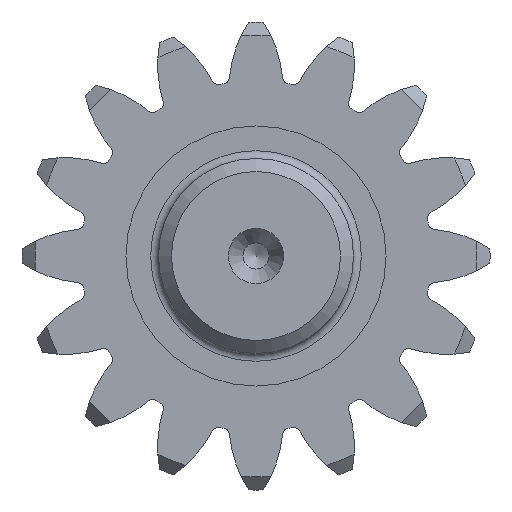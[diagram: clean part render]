
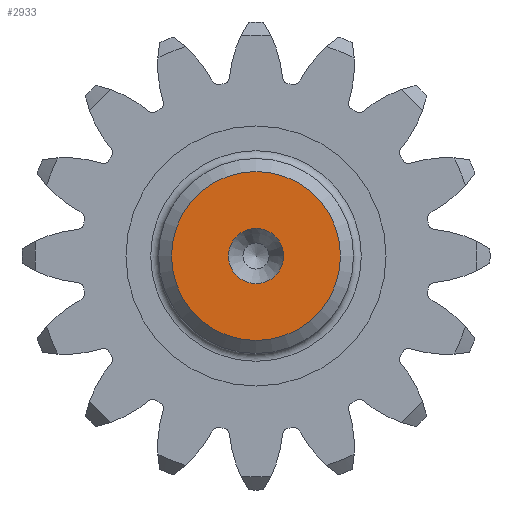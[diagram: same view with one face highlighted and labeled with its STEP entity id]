
A CAD part, left-side view. The second image highlights one B-rep face of the part: STEP entity #2933.
In plain terms, the highlighted planar face has unit normal (-1, 0, 0).
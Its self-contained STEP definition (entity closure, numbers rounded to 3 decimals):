
#20=FACE_BOUND('',#814,.T.);
#251=CIRCLE('',#3007,2.125);
#477=CIRCLE('',#3363,6.5);
#648=FACE_OUTER_BOUND('',#813,.T.);
#813=EDGE_LOOP('',(#2588));
#814=EDGE_LOOP('',(#2589));
#1115=VERTEX_POINT('',#4493);
#1373=VERTEX_POINT('',#5460);
#1434=EDGE_CURVE('',#1115,#1115,#251,.T.);
#1820=EDGE_CURVE('',#1373,#1373,#477,.T.);
#2588=ORIENTED_EDGE('',*,*,#1820,.F.);
#2589=ORIENTED_EDGE('',*,*,#1434,.T.);
#2781=PLANE('',#3362);
#2933=ADVANCED_FACE('',(#648,#20),#2781,.T.);
#3007=AXIS2_PLACEMENT_3D('',#4495,#3491,#3492);
#3362=AXIS2_PLACEMENT_3D('',#5459,#4297,#4298);
#3363=AXIS2_PLACEMENT_3D('',#5461,#4299,#4300);
#3491=DIRECTION('center_axis',(1.,0.,0.));
#3492=DIRECTION('ref_axis',(0.,1.,0.));
#4297=DIRECTION('center_axis',(-1.,0.,0.));
#4298=DIRECTION('ref_axis',(0.,0.,1.));
#4299=DIRECTION('center_axis',(1.,0.,0.));
#4300=DIRECTION('ref_axis',(0.,0.,-1.));
#4493=CARTESIAN_POINT('',(0.,-2.125,0.));
#4495=CARTESIAN_POINT('Origin',(0.,0.,0.));
#5459=CARTESIAN_POINT('Origin',(0.,6.5,0.));
#5460=CARTESIAN_POINT('',(0.,-6.5,0.));
#5461=CARTESIAN_POINT('Origin',(0.,0.,0.));
